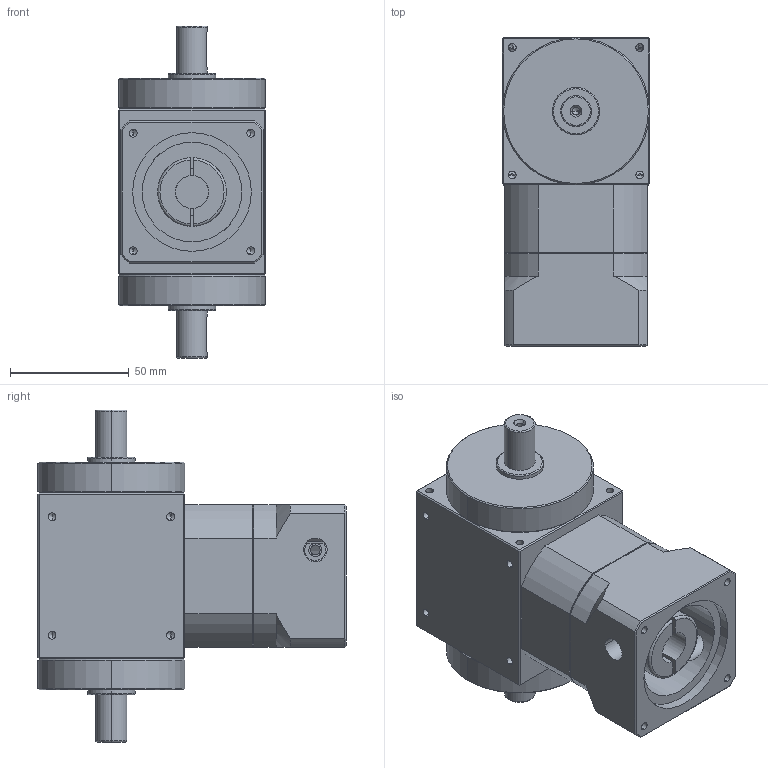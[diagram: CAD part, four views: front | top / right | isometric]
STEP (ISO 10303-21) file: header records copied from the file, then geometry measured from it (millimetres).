
FILE_DESCRIPTION (( 'STEP AP203' ), '1' );
FILE_NAME ('KHT60-S2-L1£r50PCD£r70M4.STEP', '2014-03-24T00:13:57', ( 'KELLY' ), ( '' ), 'SwSTEP 2.0', 'SolidWorks 2012', '' );
FILE_SCHEMA (( 'CONFIG_CONTROL_DESIGN' ));
Length unit declared in the file: millimetre
Products named in the file (1): KHT60-S2-L1｣r50PCD｣r70M4
Bounding box: 62 x 130 x 140 mm (x, y, z)
Volume: 539517.8 mm3; surface area: 78853.4 mm2
Topology: 6 solids, 6 shells, 291 faces, 726 edges, 406 vertices
Faces by surface type: cylinder 124, plane 79, cone 76, torus 12
Entity records: 9246 total; most frequent: CARTESIAN_POINT 2555, DIRECTION 1402, ORIENTED_EDGE 1348, EDGE_CURVE 674, AXIS2_PLACEMENT_3D 544, VERTEX_POINT 406, EDGE_LOOP 338, LINE 314
